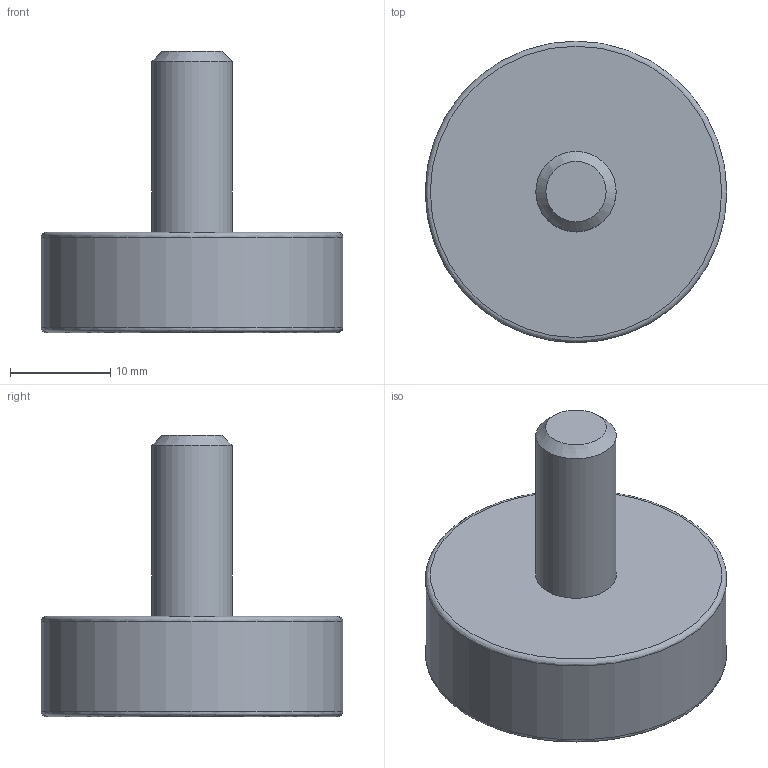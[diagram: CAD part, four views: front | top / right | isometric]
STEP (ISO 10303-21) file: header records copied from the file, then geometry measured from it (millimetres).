
FILE_DESCRIPTION(('STEP AP203'),'2;1');
FILE_NAME('7030-8X-18I.stp','2016-06-03T07:21:51',(''),(''),'2008.1.107','THINKDESIGN','');
FILE_SCHEMA(('CONFIG_CONTROL_DESIGN'));
Length unit declared in the file: millimetre
Bounding box: 30 x 30 x 28 mm (x, y, z)
Volume: 7951.8 mm3; surface area: 2852.4 mm2
Topology: 2 solids, 2 shells, 9 faces, 19 edges, 14 vertices
Faces by surface type: plane 4, bspline 3, cylinder 2
Full cylindrical faces by diameter (mm): 8 x1, 30 x1
Entity records: 914 total; most frequent: CARTESIAN_POINT 613, DIRECTION 47, ORIENTED_EDGE 38, AXIS2_PLACEMENT_3D 22, EDGE_CURVE 19, CIRCLE 16, VERTEX_POINT 14, EDGE_LOOP 9
